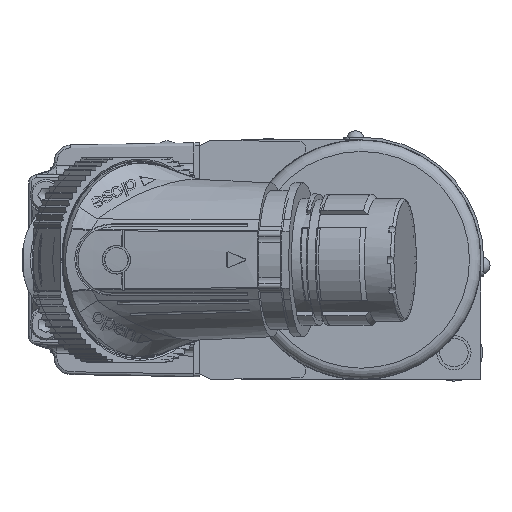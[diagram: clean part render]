
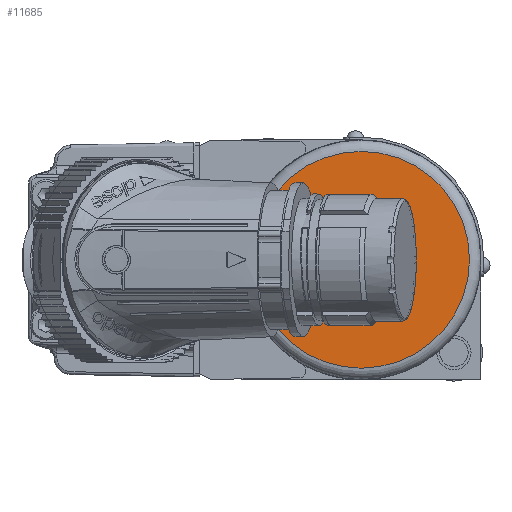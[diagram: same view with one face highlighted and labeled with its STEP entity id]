
A CAD part, left-side view. The second image highlights one B-rep face of the part: STEP entity #11685.
In plain terms, the highlighted planar face has unit normal (-1, 0, 0).
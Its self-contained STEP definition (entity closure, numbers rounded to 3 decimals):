
#5622 = FACE_OUTER_BOUND ( 'NONE', #66402, .T. ) ;
#11685 = ADVANCED_FACE ( 'NONE', ( #5622 ), #56465, .T. ) ;
#13038 = CARTESIAN_POINT ( 'NONE',  ( -279., 0., 0. ) ) ;
#13176 = ORIENTED_EDGE ( 'NONE', *, *, #73353, .T. ) ;
#22407 = DIRECTION ( 'NONE',  ( -1., 0., 0. ) ) ;
#25489 = DIRECTION ( 'NONE',  ( 0., 0., 1. ) ) ;
#40546 = AXIS2_PLACEMENT_3D ( 'NONE', #13038, #62776, #25489 ) ;
#53720 = CARTESIAN_POINT ( 'NONE',  ( -279., 0., 19. ) ) ;
#55288 = AXIS2_PLACEMENT_3D ( 'NONE', #59616, #22407, #65957 ) ;
#56465 = PLANE ( 'NONE',  #40546 ) ;
#59616 = CARTESIAN_POINT ( 'NONE',  ( -279., 0., 0. ) ) ;
#61936 = VERTEX_POINT ( 'NONE', #53720 ) ;
#62776 = DIRECTION ( 'NONE',  ( -1., 0., 0. ) ) ;
#65957 = DIRECTION ( 'NONE',  ( 0., 0., 1. ) ) ;
#66402 = EDGE_LOOP ( 'NONE', ( #13176 ) ) ;
#66571 = CIRCLE ( 'NONE', #55288, 19. ) ;
#73353 = EDGE_CURVE ( 'NONE', #61936, #61936, #66571, .T. ) ;
